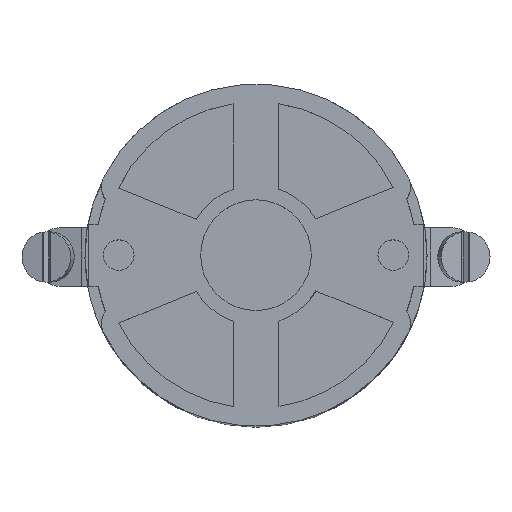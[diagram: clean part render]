
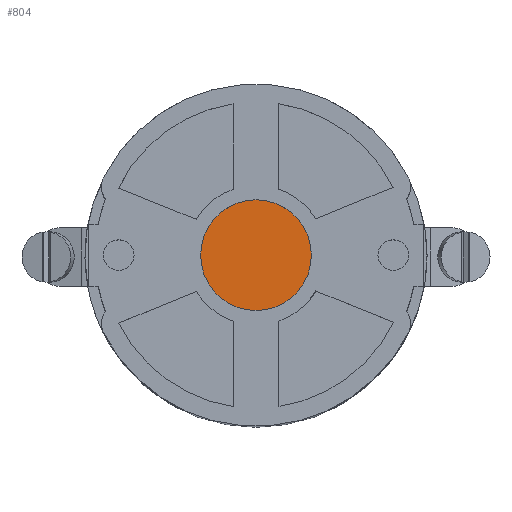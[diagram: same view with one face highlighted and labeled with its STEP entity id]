
A CAD part, top view. The second image highlights one B-rep face of the part: STEP entity #804.
In plain terms, the highlighted planar face has unit normal (0, 0, 1).
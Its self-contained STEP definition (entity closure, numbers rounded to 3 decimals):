
#804=ADVANCED_FACE('',(#2456),#1723,.T.);
#1723=PLANE('',#17561);
#2456=FACE_OUTER_BOUND('',#3280,.T.);
#3280=EDGE_LOOP('',(#7848));
#7848=ORIENTED_EDGE('',*,*,#14571,.F.);
#12838=VERTEX_POINT('',#23864);
#14571=EDGE_CURVE('',#12838,#12838,#17032,.T.);
#17032=CIRCLE('',#17560,6.15);
#17560=AXIS2_PLACEMENT_3D('',#23863,#19174,#19175);
#17561=AXIS2_PLACEMENT_3D('',#23865,#19176,#19177);
#19174=DIRECTION('',(0.,0.,-1.));
#19175=DIRECTION('',(1.,0.,0.));
#19176=DIRECTION('',(0.,0.,1.));
#19177=DIRECTION('',(1.,0.,0.));
#23863=CARTESIAN_POINT('',(0.,0.,60.5));
#23864=CARTESIAN_POINT('',(6.15,0.,60.5));
#23865=CARTESIAN_POINT('',(0.,0.,60.5));
